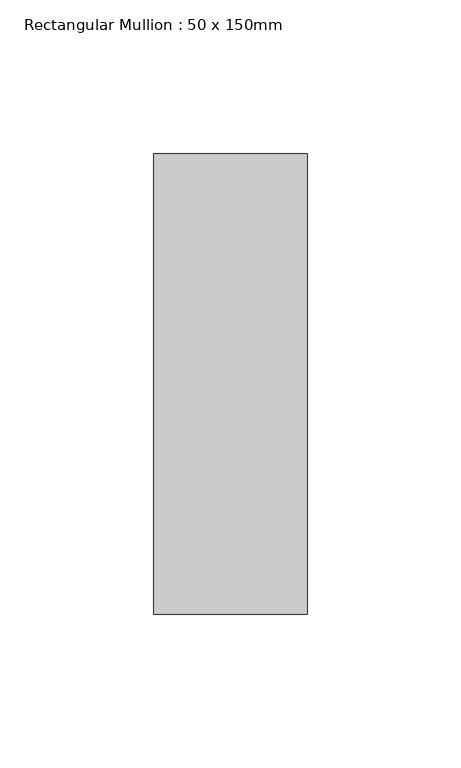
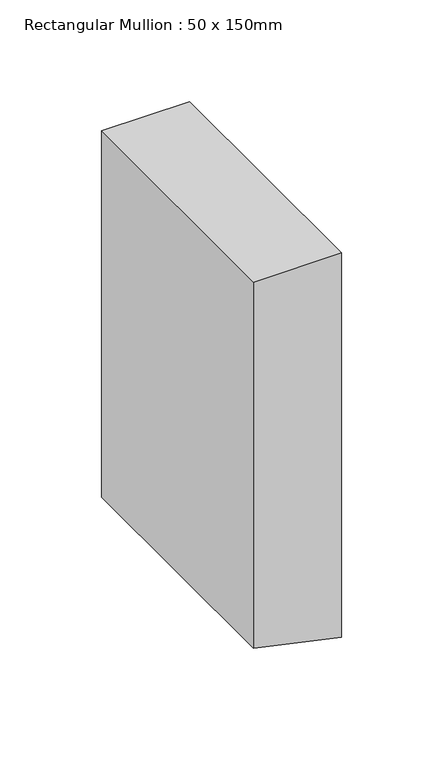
"""IFC4 building model written with IfcOpenShell, lengths in millimetres: member geometry, Rectangular Mullion : 50 x 150mm."""

from ifc_helpers import new_model, si_unit, frame, origin, place, context, project, spatial, polyline, outline, extrude, source, transform, mapped, element, save


def rectangular_mullion_50_x_150mm_eeebb5bd(model_context):
    return source(origin(), model_context, "Body", "SweptSolid", [
        extrude(outline(polyline([(0.0, 0.0), (0.0, -50.0), (-220.1113057, -50.0), (-230.948718, 0.0), (0.0, 0.0)])), frame((0.0, -75.0, 0.0), z_axis=(0.0, 1.0, 0.0), x_axis=(0.0, 0.0, 1.0)), (0.0, 0.0, 1.0), 150.0),
    ])


if __name__ == "__main__":
    model = new_model("IFC4")
    model_context = context("Model", 3, world=origin())
    ifc_project = project(units=[si_unit("LENGTHUNIT", "METRE", prefix="MILLI")], contexts=[model_context])
    site = spatial("IfcSite", under=ifc_project)
    building = spatial("IfcBuilding", under=site)
    placement = place(None, origin())
    rectangular_mullion_50_x_150mm_shape = rectangular_mullion_50_x_150mm_eeebb5bd(model_context)
    element("IfcMember", 1, ObjectType="Rectangular Mullion : 50 x 150mm", at=placement, inside=building, context=model_context, shape_type="MappedRepresentation", body=[
        mapped(rectangular_mullion_50_x_150mm_shape, transform((0.0, 0.0, 0.0), x_axis=(1.0, 0.0, 0.0), y_axis=(0.0, 1.0, 0.0), z_axis=(0.0, 0.0, 1.0))),
    ])
    save(model, "model.ifc")
